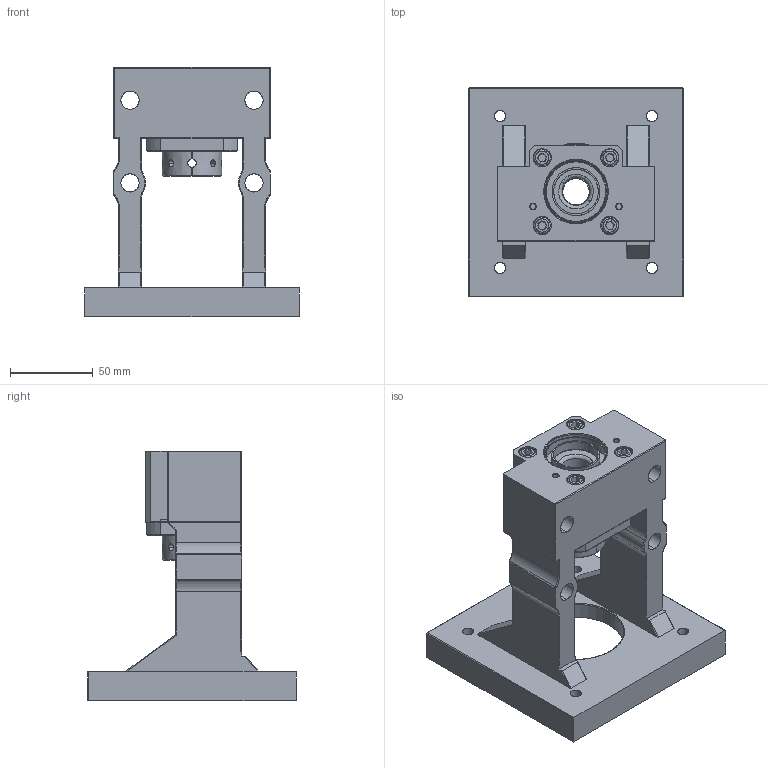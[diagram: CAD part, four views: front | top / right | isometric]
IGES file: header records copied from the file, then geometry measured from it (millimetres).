
Start section: SolidWorks IGES file using analytic representation for surfaces
Global section: file name: C:\Users\117\Desktop\1061208網站3D圖檔問題處理\傳動座\整合型\MBCS(F)\MBCS17\MBCS17-S.IGS,15HSolidWorks; native system: 2017; preprocessor: SolidWorks 2017; author: 117; date: 171228.155112; units: millimetre
Bounding box: 130 x 126 x 151 mm (x, y, z)
Surface area: 106122.7 mm2 (no closed solid volume)
Topology: 0 solids, 0 shells, 363 faces, 5790 edges, 5780 vertices
Faces by surface type: revolution 216, bspline 147
